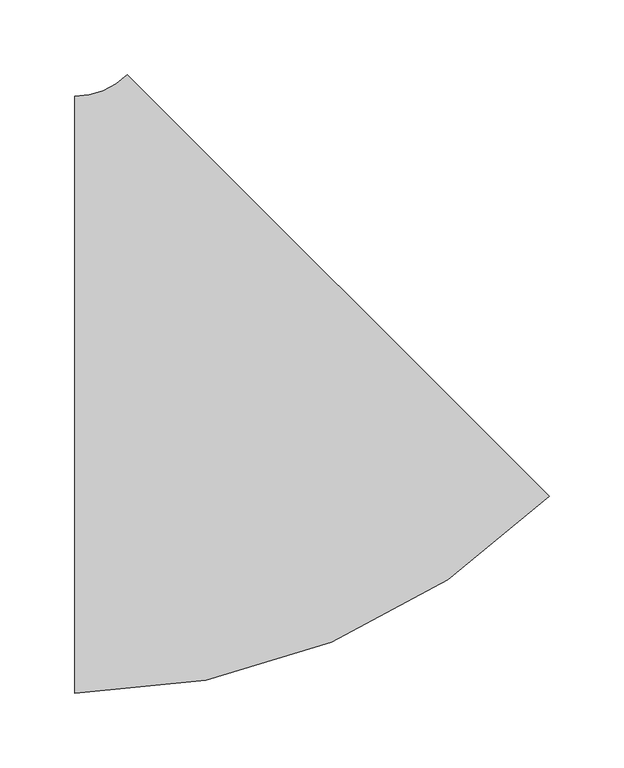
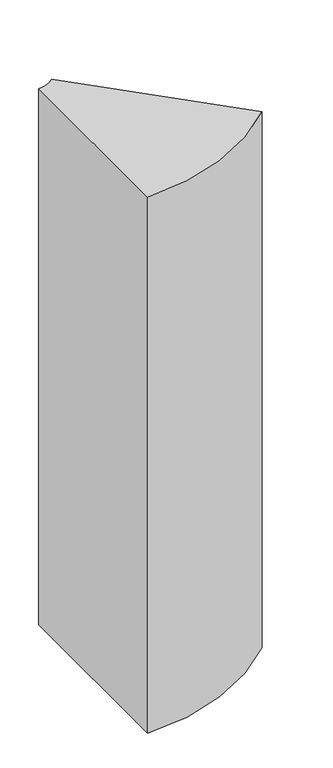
"""IFC4 building model written with IfcOpenShell, lengths in millimetres: duct fitting geometry, ADSK_ОтводВоздуховодов_Прямоугольный1 : Стандарт 2."""

from ifc_helpers import new_model, si_unit, point, frame, frame_2d, origin, place, context, project, spatial, polyline, circle_curve, trimmed, segment, composite_curve, outline, extrude, source, transform, mapped, element, save


def duct_fitting_472c109a(model_context):
    return source(origin(), model_context, "Body", "SweptSolid", [
        extrude(outline(composite_curve([segment(trimmed(circle_curve(frame_2d((-103.5533906, 250.0)), 450.0), [point((214.6446609, -68.1980515))], [point((-103.5533906, -200.0))], False, "CARTESIAN"), True, "CONTINUOUS"), segment(polyline([(-103.5533906, -200.0), (-103.5533906, 200.0)]), True, "CONTINUOUS"), segment(trimmed(circle_curve(frame_2d((-103.5533906, 250.0)), 50.0), [point((-103.5533906, 200.0))], [point((-68.1980515, 214.6446609))], True, "CARTESIAN"), True, "CONTINUOUS"), segment(polyline([(-68.1980515, 214.6446609), (214.6446609, -68.1980515)]), True, "CONTINUOUS")], self_intersect=False)), frame((0.0, 0.0, -600.0), z_axis=(0.0, 0.0, 1.0), x_axis=(1.0, 0.0, 0.0)), (0.0, 0.0, 1.0), 1200.0),
    ])


if __name__ == "__main__":
    model = new_model("IFC4")
    model_context = context("Model", 3, world=origin())
    ifc_project = project(units=[si_unit("LENGTHUNIT", "METRE", prefix="MILLI")], contexts=[model_context])
    site = spatial("IfcSite", under=ifc_project)
    building = spatial("IfcBuilding", under=site)
    placement = place(None, origin())
    duct_fitting_shape = duct_fitting_472c109a(model_context)
    element("IfcDuctFitting", 1, ObjectType="ADSK_ОтводВоздуховодов_Прямоугольный1 : Стандарт 2", at=placement, inside=building, context=model_context, shape_type="MappedRepresentation", body=[
        mapped(duct_fitting_shape, transform((0.0, 0.0, 0.0), x_axis=(1.0, 0.0, 0.0), y_axis=(0.0, 1.0, 0.0), z_axis=(0.0, 0.0, 1.0))),
    ])
    save(model, "model.ifc")
